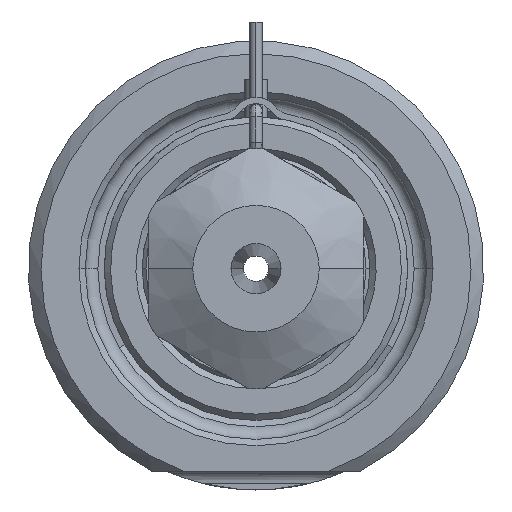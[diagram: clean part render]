
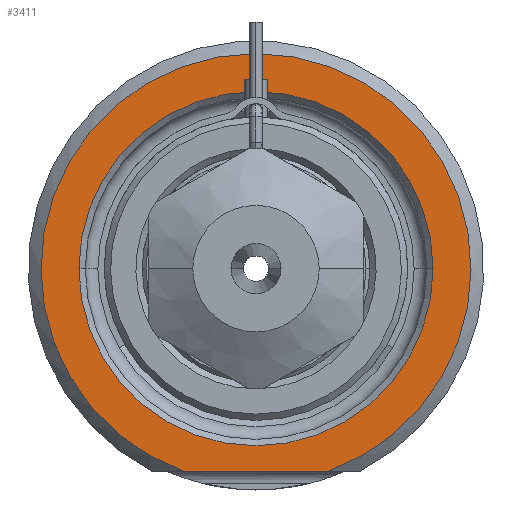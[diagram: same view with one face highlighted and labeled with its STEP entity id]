
A CAD part, front view. The second image highlights one B-rep face of the part: STEP entity #3411.
In plain terms, the highlighted planar face has unit normal (0, -1, 0).
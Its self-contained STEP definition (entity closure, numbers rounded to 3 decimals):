
#702=DIRECTION('',(1.,0.,0.));
#703=VECTOR('',#702,11.489);
#704=CARTESIAN_POINT('',(-5.745,0.,-16.));
#705=LINE('',#704,#703);
#706=CARTESIAN_POINT('',(0.,0.,0.));
#707=DIRECTION('',(0.,1.,0.));
#708=DIRECTION('',(-1.,0.,0.));
#709=AXIS2_PLACEMENT_3D('',#706,#707,#708);
#711=CARTESIAN_POINT('',(0.,0.,0.));
#712=DIRECTION('',(0.,1.,0.));
#713=DIRECTION('',(1.,0.,0.));
#714=AXIS2_PLACEMENT_3D('',#711,#712,#713);
#818=CARTESIAN_POINT('',(0.,0.,0.));
#819=DIRECTION('',(0.,-1.,0.));
#820=DIRECTION('',(0.338,0.,-0.941));
#821=AXIS2_PLACEMENT_3D('',#818,#819,#820);
#2196=CARTESIAN_POINT('',(-14.,0.,0.));
#2197=CARTESIAN_POINT('',(14.,0.,0.));
#2198=VERTEX_POINT('',#2196);
#2199=VERTEX_POINT('',#2197);
#2246=CARTESIAN_POINT('',(-5.745,0.,-16.));
#2247=CARTESIAN_POINT('',(5.745,0.,-16.));
#2248=VERTEX_POINT('',#2246);
#2249=VERTEX_POINT('',#2247);
#3395=CARTESIAN_POINT('',(0.,0.,0.));
#3396=DIRECTION('',(0.,-1.,0.));
#3397=DIRECTION('',(1.,0.,0.));
#3398=AXIS2_PLACEMENT_3D('',#3395,#3396,#3397);
#3399=PLANE('',#3398);
#3401=ORIENTED_EDGE('',*,*,#3400,.F.);
#3403=ORIENTED_EDGE('',*,*,#3402,.F.);
#3404=EDGE_LOOP('',(#3401,#3403));
#3405=FACE_OUTER_BOUND('',#3404,.F.);
#3407=ORIENTED_EDGE('',*,*,#3406,.F.);
#3408=ORIENTED_EDGE('',*,*,#3385,.F.);
#3409=EDGE_LOOP('',(#3407,#3408));
#3410=FACE_BOUND('',#3409,.F.);
#3411=ADVANCED_FACE('',(#3405,#3410),#3399,.T.);
#710=CIRCLE('',#709,14.);
#715=CIRCLE('',#714,14.);
#822=CIRCLE('',#821,17.);
#3385=EDGE_CURVE('',#2199,#2198,#715,.T.);
#3400=EDGE_CURVE('',#2248,#2249,#705,.T.);
#3402=EDGE_CURVE('',#2249,#2248,#822,.T.);
#3406=EDGE_CURVE('',#2198,#2199,#710,.T.);
